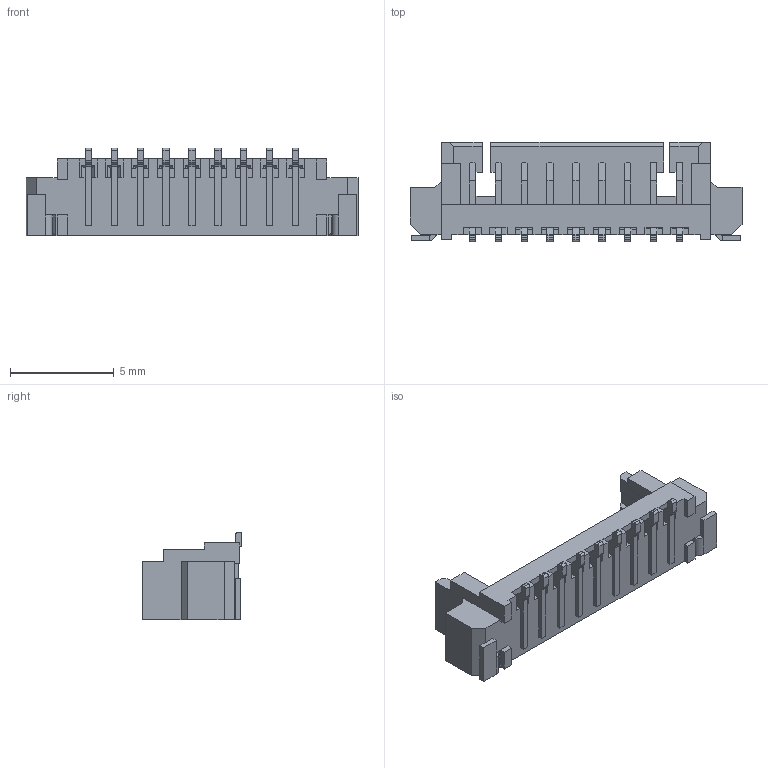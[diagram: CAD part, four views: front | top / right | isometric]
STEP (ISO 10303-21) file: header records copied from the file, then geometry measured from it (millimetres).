
FILE_DESCRIPTION((''),'2;1');
FILE_NAME('88','2016-03-14T',('k49820'),(''),'PRO/ENGINEER BY PARAMETRIC TECHNOLOGY CORPORATION, 2009440','PRO/ENGINEER BY PARAMETRIC TECHNOLOGY CORPORATION, 2009440','');
FILE_SCHEMA(('CONFIG_CONTROL_DESIGN'));
Length unit declared in the file: millimetre
Products named in the file (1): 88
Bounding box: 16 x 4.8 x 4.21 mm (x, y, z)
Volume: 116.2 mm3; surface area: 411.1 mm2
Topology: 1 solids, 1 shells, 750 faces, 2284 edges, 1510 vertices
Faces by surface type: plane 684, cylinder 64, cone 2
Entity records: 25220 total; most frequent: ORIENTED_EDGE 4568, CARTESIAN_POINT 4544, DIRECTION 3922, EDGE_CURVE 2284, VECTOR 2146, LINE 2146, VERTEX_POINT 1510, AXIS2_PLACEMENT_3D 888
